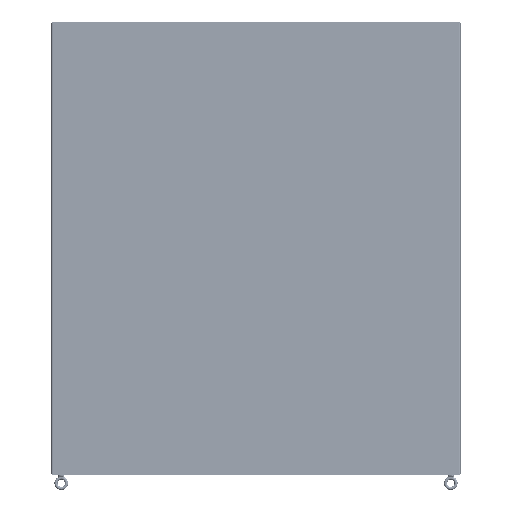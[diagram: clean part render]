
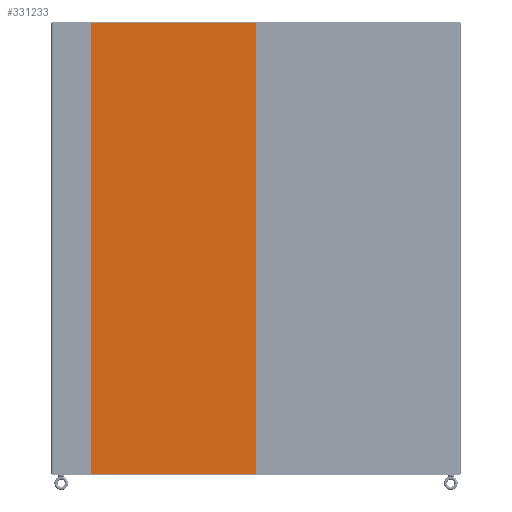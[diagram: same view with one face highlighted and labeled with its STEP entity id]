
A CAD part, left-side view. The second image highlights one B-rep face of the part: STEP entity #331233.
In plain terms, the highlighted planar face has unit normal (-1, 0, 0) as drawn and (0, 0, -1) by its records, which use the part's own axes.
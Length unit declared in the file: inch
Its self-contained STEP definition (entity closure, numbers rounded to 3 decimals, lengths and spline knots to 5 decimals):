
#330927=CARTESIAN_POINT('',(-15.6475,42.856,-0.104));
#330928=DIRECTION('',(0.,0.,-1.));
#330929=DIRECTION('',(-1.,0.,0.));
#330930=AXIS2_PLACEMENT_3D('',#330927,#330928,#330929);
#330935=DIRECTION('',(0.,-1.,0.));
#330936=VECTOR('',#330935,85.712);
#330937=CARTESIAN_POINT('',(-15.6875,42.856,-0.104));
#330938=LINE('',#330937,#330936);
#330942=CARTESIAN_POINT('',(-15.6475,-42.856,-0.104));
#330943=DIRECTION('',(0.,0.,-1.));
#330944=DIRECTION('',(0.,-1.,0.));
#330945=AXIS2_PLACEMENT_3D('',#330942,#330943,#330944);
#330950=DIRECTION('',(1.,0.,0.));
#330951=VECTOR('',#330950,31.295);
#330952=CARTESIAN_POINT('',(-15.6475,-42.896,-0.104));
#330953=LINE('',#330952,#330951);
#330957=CARTESIAN_POINT('',(15.6475,-42.856,-0.104));
#330958=DIRECTION('',(0.,0.,-1.));
#330959=DIRECTION('',(1.,0.,0.));
#330960=AXIS2_PLACEMENT_3D('',#330957,#330958,#330959);
#330965=DIRECTION('',(0.,1.,0.));
#330966=VECTOR('',#330965,85.712);
#330967=CARTESIAN_POINT('',(15.6875,-42.856,-0.104));
#330968=LINE('',#330967,#330966);
#330972=CARTESIAN_POINT('',(15.6475,42.856,-0.104));
#330973=DIRECTION('',(0.,0.,-1.));
#330974=DIRECTION('',(0.,1.,0.));
#330975=AXIS2_PLACEMENT_3D('',#330972,#330973,#330974);
#330980=DIRECTION('',(-1.,0.,0.));
#330981=VECTOR('',#330980,31.295);
#330982=CARTESIAN_POINT('',(15.6475,42.896,-0.104));
#330983=LINE('',#330982,#330981);
#330991=CARTESIAN_POINT('',(-15.6875,42.856,-0.104));
#330992=VERTEX_POINT('',#330991);
#330993=CARTESIAN_POINT('',(-15.6475,42.896,-0.104));
#330994=VERTEX_POINT('',#330993);
#330999=CARTESIAN_POINT('',(-15.6475,-42.896,-0.104));
#331000=VERTEX_POINT('',#330999);
#331001=CARTESIAN_POINT('',(-15.6875,-42.856,-0.104));
#331002=VERTEX_POINT('',#331001);
#331007=CARTESIAN_POINT('',(15.6475,42.896,-0.104));
#331008=VERTEX_POINT('',#331007);
#331009=CARTESIAN_POINT('',(15.6475,-42.896,-0.104));
#331010=VERTEX_POINT('',#331009);
#331013=CARTESIAN_POINT('',(15.6875,42.856,-0.104));
#331014=VERTEX_POINT('',#331013);
#331017=CARTESIAN_POINT('',(15.6875,-42.856,-0.104));
#331018=VERTEX_POINT('',#331017);
#331218=CARTESIAN_POINT('',(0.,0.,-0.104));
#331219=DIRECTION('',(0.,0.,1.));
#331220=DIRECTION('',(1.,0.,0.));
#331221=AXIS2_PLACEMENT_3D('',#331218,#331219,#331220);
#331222=PLANE('',#331221);
#331223=ORIENTED_EDGE('',*,*,#331058,.F.);
#331224=ORIENTED_EDGE('',*,*,#331081,.T.);
#331225=ORIENTED_EDGE('',*,*,#331101,.F.);
#331226=ORIENTED_EDGE('',*,*,#331123,.T.);
#331227=ORIENTED_EDGE('',*,*,#331143,.F.);
#331228=ORIENTED_EDGE('',*,*,#331163,.T.);
#331229=ORIENTED_EDGE('',*,*,#331185,.F.);
#331230=ORIENTED_EDGE('',*,*,#331204,.T.);
#331231=EDGE_LOOP('',(#331223,#331224,#331225,#331226,#331227,#331228,#331229,
#331230));
#331232=FACE_OUTER_BOUND('',#331231,.F.);
#330931=CIRCLE('',#330930,0.04);
#330946=CIRCLE('',#330945,0.04);
#330961=CIRCLE('',#330960,0.04);
#330976=CIRCLE('',#330975,0.04);
#331058=EDGE_CURVE('',#330992,#330994,#330931,.T.);
#331081=EDGE_CURVE('',#330992,#331002,#330938,.T.);
#331101=EDGE_CURVE('',#331000,#331002,#330946,.T.);
#331123=EDGE_CURVE('',#331000,#331010,#330953,.T.);
#331143=EDGE_CURVE('',#331018,#331010,#330961,.T.);
#331163=EDGE_CURVE('',#331018,#331014,#330968,.T.);
#331185=EDGE_CURVE('',#331008,#331014,#330976,.T.);
#331204=EDGE_CURVE('',#331008,#330994,#330983,.T.);
#331233=ADVANCED_FACE('',(#331232),#331222,.F.);
